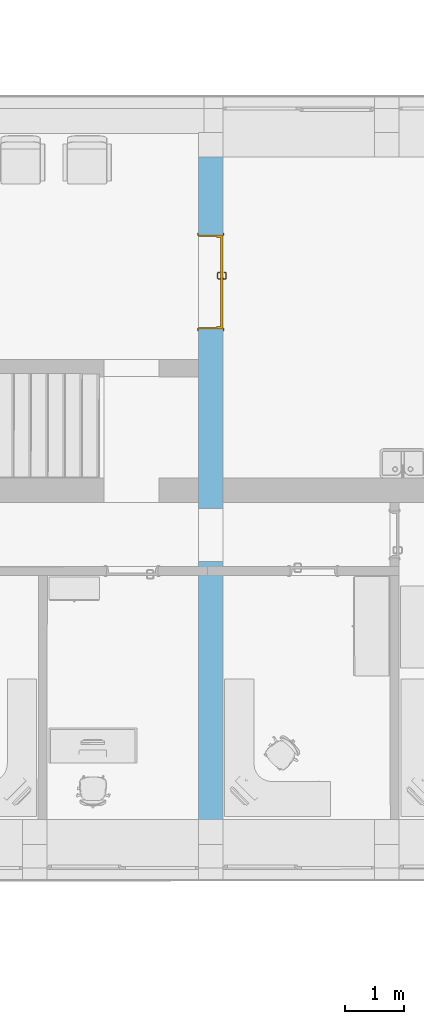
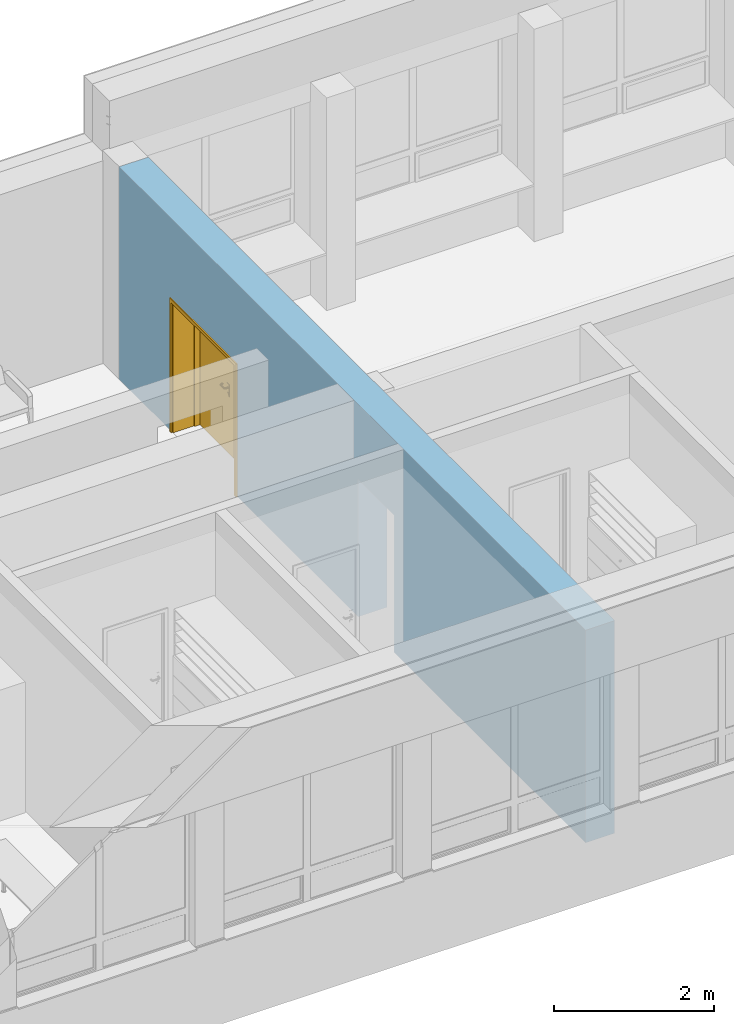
# One storey, part 67 of 194: 1 door, 2 openings, plus 1 element that does not belong to this part.
"""IFC2X3 building model written with IfcOpenShell, lengths in millimetres."""

from ifc_helpers import new_model, entity, si_unit, converted_unit, derived_unit, money_unit, direction, frame, origin_with_axes, origin_2d_with_axis, place, context, subcontext, project, spatial, polyline, rectangle, outline, extrude, open_shell, faceted_brep, surface_model, material, layer, layer_set, layer_usage, type_object, element, fill, save


model = new_model("IFC2X3")

# Units and contexts
model_context = context("Model", 3, precision=1e-05, world=origin_with_axes(), true_north=direction((0.0, 1.0)))
body_context = subcontext(model_context, "Body", "Model", "MODEL_VIEW")
ifc_project = project(units=[si_unit("LENGTHUNIT", "METRE", prefix="MILLI"), si_unit("AREAUNIT", "SQUARE_METRE"), si_unit("VOLUMEUNIT", "CUBIC_METRE"), converted_unit("PLANEANGLEUNIT", "DEGREE", entity("IfcPlaneAngleMeasure", 0.0174532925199), si_unit("PLANEANGLEUNIT", "RADIAN"), dimensions=[0, 0, 0, 0, 0, 0, 0]), si_unit("SOLIDANGLEUNIT", "STERADIAN"), money_unit("EUR"), converted_unit("TIMEUNIT", "Year", entity("IfcTimeMeasure", 31556926.0), si_unit("TIMEUNIT", "SECOND"), dimensions=[0, 0, 1, 0, 0, 0, 0]), si_unit("MASSUNIT", "GRAM", prefix="KILO"), si_unit("THERMODYNAMICTEMPERATUREUNIT", "DEGREE_CELSIUS"), si_unit("LUMINOUSINTENSITYUNIT", "LUMEN"), si_unit("ENERGYUNIT", "JOULE", prefix="MEGA"), derived_unit("THERMALCONDUCTANCEUNIT", [(si_unit("POWERUNIT", "WATT"), 1), (si_unit("LENGTHUNIT", "METRE"), -1), (si_unit("THERMODYNAMICTEMPERATUREUNIT", "KELVIN"), -1)]), derived_unit("SPECIFICHEATCAPACITYUNIT", [(si_unit("ENERGYUNIT", "JOULE"), 1), (si_unit("MASSUNIT", "GRAM", prefix="KILO"), -1), (si_unit("THERMODYNAMICTEMPERATUREUNIT", "KELVIN"), -1)]), derived_unit("MASSDENSITYUNIT", [(si_unit("MASSUNIT", "GRAM", prefix="KILO"), 1), (si_unit("VOLUMEUNIT", "CUBIC_METRE"), -1)])], contexts=[model_context])

# Site, building, storey
site_placement = place(None, origin_with_axes())
site = spatial("IfcSite", under=ifc_project, at=site_placement, Name="Site", CompositionType="ELEMENT")
building_placement = place(site_placement, origin_with_axes())
building = spatial("IfcBuilding", under=site, at=building_placement, Name="Building", CompositionType="ELEMENT")
storey_placement = place(building_placement, frame((0.0, 0.0, 3000.0), z_axis=(0.0, 0.0, 1.0), x_axis=(1.0, 0.0, 0.0)))
storey = spatial("IfcBuildingStorey", under=building, at=storey_placement, Name="2 KORRUS", CompositionType="ELEMENT", Elevation=3000.0)

# Wall, openings, door
ifc_material = material(Name="Kivi -Ol.Olev Konstruktsioon")
ifc_layer = layer(ifc_material, 420.0, ventilated="UNKNOWN")
ifc_layer_set = layer_set([ifc_layer], Name="ol.olev ss 420")
ifc_layer_usage = layer_usage(ifc_layer_set, "AXIS2", "POSITIVE", -420.0)
wall_type = type_object("IfcWallType", Name="SW - 032", PredefinedType="NOTDEFINED")
wall_placement = place(storey_placement, frame((87737.3527847, 34355.6269509, 0.0), z_axis=(0.0, 0.0, 1.0), x_axis=(0.0, 1.0, 0.0)))
wall = element("IfcWallStandardCase", 1, at=wall_placement, inside=storey, type_object=wall_type, material=ifc_layer_usage, Name="ol.olev ss 420", context=body_context, shape_type="SweptSolid", body=[
    extrude(outline(polyline([(430.035803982, -420.0), (12116.1155054, -420.0), (12116.1155054, 0.0), (430.000001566, 0.0), (430.035803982, -420.0)])), origin_with_axes(), (0.0, 0.0, 1.0), 3250.0),
])
opening_1_placement = place(wall_placement, frame((5678.66715227, 0.0, 0.0), z_axis=(0.0, 0.0, 1.0), x_axis=(1.0, 0.0, 0.0)))
element("IfcOpeningElement", 2, at=opening_1_placement, cuts=wall, Name="Siseuks * Rectangular Door Opening 22", context=body_context, shape_type="SweptSolid", body=[
    extrude(rectangle(XDim=900.0, YDim=2100.0, at=origin_2d_with_axis()), frame((0.0, 420.0, 1050.0), z_axis=(0.0, -1.0, 0.0), x_axis=(1.0, 0.0, 0.0)), (0.0, 0.0, 1.0), 1260.0),
])
opening_2_placement = place(wall_placement, frame((9990.59023748, 0.0, 0.0), z_axis=(0.0, 0.0, 1.0), x_axis=(1.0, 0.0, 0.0)))
opening_2 = element("IfcOpeningElement", 3, at=opening_2_placement, cuts=wall, Name="Siseuks * Double Door 22", context=body_context, shape_type="SweptSolid", body=[
    extrude(rectangle(XDim=1600.0, YDim=2000.0, at=origin_2d_with_axis()), frame((0.0, 420.0, 1000.0), z_axis=(0.0, 1.0, 0.0), x_axis=(1.0, 0.0, 0.0)), (0.0, 0.0, -1.0), 1260.0),
    extrude(rectangle(XDim=1674.0, YDim=2037.0, at=origin_2d_with_axis()), frame((0.0, 0.0, 1018.5), z_axis=(0.0, 1.0, 0.0), x_axis=(1.0, 0.0, 0.0)), (0.0, 0.0, 1.0), 420.0),
    extrude(rectangle(XDim=1674.0, YDim=2037.0, at=origin_2d_with_axis()), frame((0.0, -420.0, 1018.5), z_axis=(0.0, -1.0, 0.0), x_axis=(1.0, 0.0, 0.0)), (0.0, 0.0, 1.0), 420.0),
])
door_style = type_object("IfcDoorStyle", Name="SU-B245   1\xa0600×2\xa0000", ConstructionType="NOTDEFINED", OperationType="DOUBLE_DOOR_SINGLE_SWING", ParameterTakesPrecedence=False, Sizeable=False)
door_placement = place(opening_2_placement, frame((800.0, 0.0, 0.0), z_axis=(0.0, 0.0, 1.0), x_axis=(-1.0, 0.0, 0.0)))
door = element("IfcDoor", 4, at=door_placement, inside=storey, type_object=door_style, Name="Siseuks * Double Door 22", OverallHeight=2000.0, OverallWidth=1600.0, context=body_context, shape_type="SurfaceModel", body=[
    faceted_brep([(1600.0, 305.0, 0.0), (1600.0, 0.0, 0.0), (1575.0, 0.0, 0.0), (1575.0, 305.0, 0.0), (1600.0, 305.0, 2000.0), (1600.0, 0.0, 2000.0), (1575.0, 0.0, 1975.0), (1575.0, 305.0, 1975.0)], [[[0, 1, 2, 3]], [[4, 5, 1, 0]], [[1, 5, 6, 2]], [[3, 2, 6, 7]], [[0, 3, 7, 4]], [[7, 6, 5, 4]]]),
    faceted_brep([(0.0, 305.0, 2000.0), (0.0, 0.0, 2000.0), (25.0000000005, 0.0, 1975.0), (25.0000000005, 305.0, 1975.0), (0.0, 305.0, 0.0), (0.0, 0.0, 0.0), (25.0000000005, 0.0, 0.0), (25.0000000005, 305.0, 0.0)], [[[0, 1, 2, 3]], [[4, 5, 1, 0]], [[1, 5, 6, 2]], [[3, 2, 6, 7]], [[0, 3, 7, 4]], [[7, 6, 5, 4]]]),
    faceted_brep([(1575.0, 305.0, 1975.0), (1575.0, 0.0, 1975.0), (25.0000000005, 0.0, 1975.0), (25.0000000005, 305.0, 1975.0), (1600.0, 305.0, 2000.0), (1600.0, 0.0, 2000.0), (0.0, 0.0, 2000.0), (0.0, 305.0, 2000.0)], [[[0, 1, 2, 3]], [[4, 5, 1, 0]], [[1, 5, 6, 2]], [[3, 2, 6, 7]], [[0, 3, 7, 4]], [[7, 6, 5, 4]]]),
    faceted_brep([(1637.0, -19.0, 0.0), (1587.0, -19.0, 0.0), (1587.0, 0.0, 0.0), (1637.0, 0.0, 0.0), (1637.0, -19.0, 2037.0), (1587.0, -19.0, 1987.0), (1587.0, 0.0, 1987.0), (1637.0, 0.0, 2037.0)], [[[0, 1, 2, 3]], [[0, 4, 5, 1]], [[1, 5, 6, 2]], [[3, 2, 6, 7]], [[4, 0, 3, 7]], [[5, 4, 7, 6]]]),
    faceted_brep([(-37.0000000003, -19.0, 2037.0), (12.9999999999, -19.0, 1987.0), (12.9999999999, 0.0, 1987.0), (-37.0000000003, 0.0, 2037.0), (-37.0000000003, -19.0, 0.0), (12.9999999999, -19.0, 0.0), (12.9999999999, 0.0, 0.0), (-37.0000000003, 0.0, 0.0)], [[[0, 1, 2, 3]], [[0, 4, 5, 1]], [[1, 5, 6, 2]], [[3, 2, 6, 7]], [[4, 0, 3, 7]], [[5, 4, 7, 6]]]),
    faceted_brep([(1637.0, -19.0, 2037.0), (1587.0, -19.0, 1987.0), (1587.0, 0.0, 1987.0), (1637.0, 0.0, 2037.0), (-37.0000000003, -19.0, 2037.0), (12.9999999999, -19.0, 1987.0), (12.9999999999, 0.0, 1987.0), (-37.0000000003, 0.0, 2037.0)], [[[0, 1, 2, 3]], [[0, 4, 5, 1]], [[1, 5, 6, 2]], [[3, 2, 6, 7]], [[4, 0, 3, 7]], [[5, 4, 7, 6]]]),
    faceted_brep([(1637.0, 439.0, 0.0), (1637.0, 420.0, 0.0), (1587.0, 420.0, 0.0), (1587.0, 439.0, 0.0), (1637.0, 439.0, 2037.0), (1637.0, 420.0, 2037.0), (1587.0, 420.0, 1987.0), (1587.0, 439.0, 1987.0)], [[[0, 1, 2, 3]], [[4, 5, 1, 0]], [[1, 5, 6, 2]], [[3, 2, 6, 7]], [[0, 3, 7, 4]], [[7, 6, 5, 4]]]),
    faceted_brep([(-37.0000000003, 439.0, 2037.0), (-37.0000000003, 420.0, 2037.0), (12.9999999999, 420.0, 1987.0), (12.9999999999, 439.0, 1987.0), (-37.0000000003, 439.0, 0.0), (-37.0000000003, 420.0, 0.0), (12.9999999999, 420.0, 0.0), (12.9999999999, 439.0, 0.0)], [[[0, 1, 2, 3]], [[4, 5, 1, 0]], [[1, 5, 6, 2]], [[3, 2, 6, 7]], [[0, 3, 7, 4]], [[7, 6, 5, 4]]]),
    faceted_brep([(1637.0, 439.0, 2037.0), (1637.0, 420.0, 2037.0), (1587.0, 420.0, 1987.0), (1587.0, 439.0, 1987.0), (-37.0000000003, 439.0, 2037.0), (-37.0000000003, 420.0, 2037.0), (12.9999999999, 420.0, 1987.0), (12.9999999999, 439.0, 1987.0)], [[[0, 1, 2, 3]], [[4, 5, 1, 0]], [[1, 5, 6, 2]], [[3, 2, 6, 7]], [[0, 3, 7, 4]], [[7, 6, 5, 4]]]),
    faceted_brep([(1560.0, 380.0, 0.0), (1560.0, 305.0, 0.0), (1560.0, 305.0, 1960.0), (1560.0, 380.0, 1960.0), (1572.0, 380.0, 0.0), (1572.0, 420.0, 0.0), (1600.0, 420.0, 0.0), (1600.0, 305.0, 0.0), (1600.0, 305.0, 1960.0), (1572.0, 380.0, 1960.0), (1600.0, 420.0, 1960.0), (1572.0, 420.0, 1960.0)], [[[0, 1, 2, 3]], [[4, 5, 6, 7, 1, 0]], [[1, 7, 8, 2]], [[9, 3, 2, 8, 10, 11]], [[9, 4, 0, 3]], [[11, 5, 4, 9]], [[11, 10, 6, 5]], [[6, 10, 8, 7]]]),
    faceted_brep([(28.0000000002, 380.0, 1960.0), (28.0000000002, 420.0, 1960.0), (0.0, 420.0, 1960.0), (0.0, 305.0, 1960.0), (40.0, 305.0, 1960.0), (40.0, 380.0, 1960.0), (28.0000000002, 380.0, 0.0), (28.0000000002, 420.0, 0.0), (0.0, 420.0, 0.0), (0.0, 305.0, 0.0), (40.0, 305.0, 0.0), (40.0, 380.0, 0.0)], [[[0, 1, 2, 3, 4, 5]], [[0, 6, 7, 1]], [[7, 8, 2, 1]], [[2, 8, 9, 3]], [[3, 9, 10, 4]], [[5, 4, 10, 11]], [[5, 11, 6, 0]], [[6, 11, 10, 9, 8, 7]]]),
    faceted_brep([(1572.0, 420.0, 1972.0), (28.0000000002, 420.0, 1972.0), (28.0000000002, 420.0, 1960.0), (0.0, 420.0, 1960.0), (0.0, 420.0, 2000.0), (1600.0, 420.0, 2000.0), (1600.0, 420.0, 1960.0), (1572.0, 420.0, 1960.0), (1572.0, 380.0, 1972.0), (28.0000000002, 380.0, 1972.0), (28.0000000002, 380.0, 1960.0), (40.0, 380.0, 1960.0), (40.0, 305.0, 1960.0), (0.0, 305.0, 1960.0), (0.0, 305.0, 2000.0), (1600.0, 305.0, 2000.0), (1600.0, 305.0, 1960.0), (1572.0, 380.0, 1960.0), (1560.0, 305.0, 1960.0), (1560.0, 380.0, 1960.0)], [[[0, 1, 2, 3, 4, 5, 6, 7]], [[0, 8, 9, 1]], [[1, 9, 10, 2]], [[10, 11, 12, 13, 3, 2]], [[4, 3, 13, 14]], [[5, 4, 14, 15]], [[6, 5, 15, 16]], [[17, 7, 6, 16, 18, 19]], [[7, 17, 8, 0]], [[10, 9, 8, 17, 19, 11]], [[19, 18, 12, 11]], [[12, 18, 16, 15, 14, 13]]]),
    faceted_brep([(778.5, 380.0, 1060.0), (721.500000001, 380.0, 1060.0), (721.500000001, 377.0, 1060.0), (778.5, 377.0, 1060.0), (778.5, 380.0, 870.0), (721.500000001, 380.0, 870.0), (721.500000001, 377.0, 870.0), (778.5, 377.0, 870.0)], [[[0, 1, 2, 3]], [[0, 4, 5, 1]], [[1, 5, 6, 2]], [[3, 2, 6, 7]], [[4, 0, 3, 7]], [[5, 4, 7, 6]]]),
    surface_model("IfcShellBasedSurfaceModel", [(740.0, 367.0, 1000.0), (742.928932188, 367.0, 992.928932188), (742.928932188, 347.696439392, 992.928932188), (740.0, 347.984914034, 1000.0), (750.0, 367.0, 990.0), (750.0, 347.0, 990.0), (741.816790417, 342.105325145, 992.928932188), (739.057796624, 343.248137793, 1000.0), (742.928932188, 367.0, 1007.07106781), (742.928932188, 347.696439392, 1007.07106781), (757.071067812, 367.0, 992.928932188), (757.071067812, 346.303560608, 992.928932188), (748.477590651, 339.346331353, 990.0), (739.044179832, 337.955820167, 992.928932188), (736.932537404, 340.067462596, 1000.0), (741.816790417, 342.105325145, 1007.07106781), (750.0, 367.0, 1010.0), (750.0, 347.0, 1010.0), (760.0, 367.0, 1000.0), (760.0, 346.015085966, 1000.0), (755.138390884, 336.58733756, 992.928932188), (744.142135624, 332.857864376, 990.0), (734.894674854, 335.183209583, 992.928932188), (733.751862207, 337.942203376, 1000.0), (739.044179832, 337.955820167, 1007.07106781), (748.477590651, 339.346331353, 1010.0), (757.071067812, 367.0, 1007.07106781), (757.071067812, 346.303560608, 1007.07106781), (757.897384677, 335.444524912, 1000.0), (749.240091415, 327.759908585, 992.928932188), (737.653668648, 328.52240935, 990.0), (729.303560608, 334.071067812, 992.928932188), (729.015085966, 337.0, 1000.0), (734.894674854, 335.183209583, 1007.07106781), (744.142135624, 332.857864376, 1010.0), (755.138390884, 336.58733756, 1007.07106781), (751.351733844, 325.648266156, 1000.0), (740.412662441, 321.861609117, 992.928932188), (730.0, 327.0, 990.0), (660.696439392, 334.071067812, 992.928932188), (660.984914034, 337.0, 1000.0), (729.303560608, 334.071067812, 1007.07106781), (737.653668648, 328.52240935, 1010.0), (749.240091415, 327.759908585, 1007.07106781), (741.555475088, 319.102615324, 1000.0), (730.696439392, 319.928932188, 992.928932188), (660.0, 327.0, 990.0), (655.105325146, 335.183209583, 992.928932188), (656.248137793, 337.942203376, 1000.0), (660.696439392, 334.071067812, 1007.07106781), (730.0, 327.0, 1010.0), (740.412662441, 321.861609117, 1007.07106781), (730.984914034, 317.0, 1000.0), (659.303560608, 319.928932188, 992.928932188), (652.346331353, 328.52240935, 990.0), (650.955820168, 337.955820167, 992.928932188), (653.067462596, 340.067462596, 1000.0), (655.105325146, 335.183209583, 1007.07106781), (660.0, 327.0, 1010.0), (730.696439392, 319.928932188, 1007.07106781), (659.015085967, 317.0, 1000.0), (649.58733756, 321.861609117, 992.928932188), (645.857864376, 332.857864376, 990.0), (648.183209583, 342.105325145, 992.928932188), (650.942203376, 343.248137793, 1000.0), (650.955820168, 337.955820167, 1007.07106781), (652.346331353, 328.52240935, 1010.0), (659.303560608, 319.928932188, 1007.07106781), (648.444524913, 319.102615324, 1000.0), (640.759908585, 327.759908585, 992.928932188), (641.52240935, 339.346331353, 990.0), (647.071067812, 347.696439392, 992.928932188), (650.000000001, 347.984914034, 1000.0), (648.183209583, 342.105325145, 1007.07106781), (645.857864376, 332.857864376, 1010.0), (649.58733756, 321.861609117, 1007.07106781), (638.648266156, 325.648266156, 1000.0), (634.861609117, 336.58733756, 992.928932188), (640.0, 347.0, 990.0), (647.071067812, 367.0, 992.928932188), (650.000000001, 367.0, 1000.0), (647.071067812, 347.696439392, 1007.07106781), (641.52240935, 339.346331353, 1010.0), (640.759908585, 327.759908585, 1007.07106781), (632.102615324, 335.444524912, 1000.0), (632.928932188, 346.303560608, 992.928932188), (640.0, 367.0, 990.0), (632.928932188, 367.0, 992.928932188), (630.0, 367.0, 1000.0), (632.928932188, 367.0, 1007.07106781), (640.0, 367.0, 1010.0), (647.071067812, 367.0, 1007.07106781), (640.0, 347.0, 1010.0), (634.861609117, 336.58733756, 1007.07106781), (630.0, 346.015085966, 1000.0), (632.928932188, 346.303560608, 1007.07106781)], [open_shell([[[0, 1, 2, 3]], [[1, 4, 5, 2]], [[3, 2, 6, 7]], [[8, 0, 3, 9]], [[4, 10, 11, 5]], [[2, 5, 12, 6]], [[7, 6, 13, 14]], [[9, 3, 7, 15]], [[16, 8, 9, 17]], [[10, 18, 19, 11]], [[5, 11, 20, 12]], [[6, 12, 21, 13]], [[14, 13, 22, 23]], [[15, 7, 14, 24]], [[17, 9, 15, 25]], [[26, 16, 17, 27]], [[18, 26, 27, 19]], [[11, 19, 28, 20]], [[12, 20, 29, 21]], [[13, 21, 30, 22]], [[23, 22, 31, 32]], [[24, 14, 23, 33]], [[25, 15, 24, 34]], [[27, 17, 25, 35]], [[19, 27, 35, 28]], [[20, 28, 36, 29]], [[21, 29, 37, 30]], [[22, 30, 38, 31]], [[32, 31, 39, 40]], [[33, 23, 32, 41]], [[34, 24, 33, 42]], [[35, 25, 34, 43]], [[28, 35, 43, 36]], [[29, 36, 44, 37]], [[30, 37, 45, 38]], [[31, 38, 46, 39]], [[40, 39, 47, 48]], [[41, 32, 40, 49]], [[42, 33, 41, 50]], [[43, 34, 42, 51]], [[36, 43, 51, 44]], [[37, 44, 52, 45]], [[38, 45, 53, 46]], [[39, 46, 54, 47]], [[48, 47, 55, 56]], [[49, 40, 48, 57]], [[50, 41, 49, 58]], [[51, 42, 50, 59]], [[44, 51, 59, 52]], [[45, 52, 60, 53]], [[46, 53, 61, 54]], [[47, 54, 62, 55]], [[56, 55, 63, 64]], [[57, 48, 56, 65]], [[58, 49, 57, 66]], [[59, 50, 58, 67]], [[52, 59, 67, 60]], [[53, 60, 68, 61]], [[54, 61, 69, 62]], [[55, 62, 70, 63]], [[64, 63, 71, 72]], [[65, 56, 64, 73]], [[66, 57, 65, 74]], [[67, 58, 66, 75]], [[60, 67, 75, 68]], [[61, 68, 76, 69]], [[62, 69, 77, 70]], [[63, 70, 78, 71]], [[72, 71, 79, 80]], [[73, 64, 72, 81]], [[74, 65, 73, 82]], [[75, 66, 74, 83]], [[68, 75, 83, 76]], [[69, 76, 84, 77]], [[70, 77, 85, 78]], [[71, 78, 86, 79]], [[80, 79, 86, 87, 88, 89, 90, 91]], [[81, 72, 80, 91]], [[82, 73, 81, 92]], [[83, 74, 82, 93]], [[76, 83, 93, 84]], [[77, 84, 94, 85]], [[78, 85, 87, 86]], [[85, 94, 88, 87]], [[94, 95, 89, 88]], [[95, 92, 90, 89]], [[92, 81, 91, 90]], [[93, 82, 92, 95]], [[84, 93, 95, 94]]])]),
    faceted_brep([(739.607695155, 367.0, 994.0), (738.0, 367.0, 1000.0), (737.0, 377.0, 1000.0), (738.741669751, 377.0, 993.5), (744.000000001, 367.0, 989.607695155), (750.0, 367.0, 988.0), (756.0, 367.0, 989.607695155), (760.392304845, 367.0, 994.0), (762.000000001, 367.0, 1000.0), (760.392304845, 367.0, 1006.0), (756.0, 367.0, 1010.39230485), (750.0, 367.0, 1012.0), (744.000000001, 367.0, 1010.39230485), (739.607695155, 367.0, 1006.0), (738.741669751, 377.0, 1006.5), (743.5, 377.0, 1011.25833025), (750.0, 377.0, 1013.0), (756.5, 377.0, 1011.25833025), (761.25833025, 377.0, 1006.5), (763.0, 377.0, 1000.0), (761.25833025, 377.0, 993.5), (756.5, 377.0, 988.741669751), (750.0, 377.0, 987.0), (743.5, 377.0, 988.741669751)], [[[0, 1, 2, 3]], [[1, 0, 4, 5, 6, 7, 8, 9, 10, 11, 12, 13]], [[1, 13, 14, 2]], [[2, 14, 15, 16, 17, 18, 19, 20, 21, 22, 23, 3]], [[4, 0, 3, 23]], [[5, 4, 23, 22]], [[6, 5, 22, 21]], [[7, 6, 21, 20]], [[8, 7, 20, 19]], [[9, 8, 19, 18]], [[10, 9, 18, 17]], [[11, 10, 17, 16]], [[12, 11, 16, 15]], [[13, 12, 15, 14]]]),
    faceted_brep([(732.679491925, 373.0, 895.0), (730.0, 373.0, 905.0), (728.0, 377.0, 905.0), (730.947441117, 377.0, 894.0), (740.0, 373.0, 887.679491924), (750.0, 373.0, 885.0), (760.0, 373.0, 887.679491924), (767.320508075, 373.0, 895.0), (770.0, 373.0, 905.0), (767.320508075, 373.0, 915.0), (760.0, 373.0, 922.320508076), (750.0, 373.0, 925.0), (740.0, 373.0, 922.320508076), (732.679491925, 373.0, 915.0), (730.947441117, 377.0, 916.0), (739.0, 377.0, 924.052558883), (750.0, 377.0, 927.0), (761.0, 377.0, 924.052558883), (769.052558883, 377.0, 916.0), (772.0, 377.0, 905.0), (769.052558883, 377.0, 894.0), (761.0, 377.0, 885.947441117), (750.0, 377.0, 883.0), (739.0, 377.0, 885.947441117)], [[[0, 1, 2, 3]], [[1, 0, 4, 5, 6, 7, 8, 9, 10, 11, 12, 13]], [[1, 13, 14, 2]], [[2, 14, 15, 16, 17, 18, 19, 20, 21, 22, 23, 3]], [[4, 0, 3, 23]], [[5, 4, 23, 22]], [[6, 5, 22, 21]], [[7, 6, 21, 20]], [[8, 7, 20, 19]], [[9, 8, 19, 18]], [[10, 9, 18, 17]], [[11, 10, 17, 16]], [[12, 11, 16, 15]], [[13, 12, 15, 14]]]),
    faceted_brep([(745.050252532, 371.0, 909.050252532), (743.0, 371.0, 914.0), (742.0, 373.0, 914.0), (744.34314575, 373.0, 908.343145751), (750.0, 371.0, 907.0), (754.949747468, 371.0, 909.050252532), (757.000000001, 371.0, 914.0), (754.949747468, 371.0, 918.949747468), (750.0, 371.0, 921.0), (745.050252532, 371.0, 918.949747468), (744.34314575, 373.0, 919.656854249), (750.0, 373.0, 922.0), (755.65685425, 373.0, 919.656854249), (758.0, 373.0, 914.0), (755.65685425, 373.0, 908.343145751), (750.0, 373.0, 906.0)], [[[0, 1, 2, 3]], [[1, 0, 4, 5, 6, 7, 8, 9]], [[1, 9, 10, 2]], [[2, 10, 11, 12, 13, 14, 15, 3]], [[4, 0, 3, 15]], [[5, 4, 15, 14]], [[6, 5, 14, 13]], [[7, 6, 13, 12]], [[8, 7, 12, 11]], [[9, 8, 11, 10]]]),
    faceted_brep([(778.5, 420.0, 1060.0), (778.5, 423.0, 1060.0), (721.500000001, 423.0, 1060.0), (721.500000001, 420.0, 1060.0), (778.5, 420.0, 870.0), (778.5, 423.0, 870.0), (721.500000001, 423.0, 870.0), (721.500000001, 420.0, 870.0)], [[[0, 1, 2, 3]], [[4, 5, 1, 0]], [[1, 5, 6, 2]], [[3, 2, 6, 7]], [[0, 3, 7, 4]], [[7, 6, 5, 4]]]),
    surface_model("IfcShellBasedSurfaceModel", [(740.0, 433.0, 1000.0), (740.0, 452.015085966, 1000.0), (742.928932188, 452.303560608, 992.928932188), (742.928932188, 433.0, 992.928932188), (742.928932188, 433.0, 1007.07106781), (742.928932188, 452.303560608, 1007.07106781), (739.057796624, 456.751862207, 1000.0), (741.816790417, 457.894674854, 992.928932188), (750.0, 453.0, 990.0), (750.0, 433.0, 990.0), (750.0, 433.0, 1010.0), (750.0, 453.0, 1010.0), (741.816790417, 457.894674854, 1007.07106781), (736.932537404, 459.932537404, 1000.0), (739.044179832, 462.044179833, 992.928932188), (748.477590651, 460.653668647, 990.0), (757.071067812, 453.696439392, 992.928932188), (757.071067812, 433.0, 992.928932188), (757.071067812, 433.0, 1007.07106781), (757.071067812, 453.696439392, 1007.07106781), (748.477590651, 460.653668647, 1010.0), (739.044179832, 462.044179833, 1007.07106781), (733.751862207, 462.057796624, 1000.0), (734.894674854, 464.816790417, 992.928932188), (744.142135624, 467.142135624, 990.0), (755.138390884, 463.41266244, 992.928932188), (760.0, 453.984914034, 1000.0), (760.0, 433.0, 1000.0), (755.138390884, 463.41266244, 1007.07106781), (744.142135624, 467.142135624, 1010.0), (734.894674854, 464.816790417, 1007.07106781), (729.015085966, 463.0, 1000.0), (729.303560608, 465.928932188, 992.928932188), (737.653668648, 471.47759065, 990.0), (749.240091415, 472.240091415, 992.928932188), (757.897384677, 464.555475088, 1000.0), (749.240091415, 472.240091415, 1007.07106781), (737.653668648, 471.47759065, 1010.0), (729.303560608, 465.928932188, 1007.07106781), (660.984914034, 463.0, 1000.0), (660.696439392, 465.928932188, 992.928932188), (730.0, 473.0, 990.0), (740.412662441, 478.138390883, 992.928932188), (751.351733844, 474.351733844, 1000.0), (740.412662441, 478.138390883, 1007.07106781), (730.0, 473.0, 1010.0), (660.696439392, 465.928932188, 1007.07106781), (656.248137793, 462.057796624, 1000.0), (655.105325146, 464.816790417, 992.928932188), (660.0, 473.0, 990.0), (730.696439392, 480.071067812, 992.928932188), (741.555475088, 480.897384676, 1000.0), (730.696439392, 480.071067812, 1007.07106781), (660.0, 473.0, 1010.0), (655.105325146, 464.816790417, 1007.07106781), (653.067462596, 459.932537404, 1000.0), (650.955820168, 462.044179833, 992.928932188), (652.346331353, 471.47759065, 990.0), (659.303560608, 480.071067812, 992.928932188), (730.984914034, 483.0, 1000.0), (659.303560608, 480.071067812, 1007.07106781), (652.346331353, 471.47759065, 1010.0), (650.955820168, 462.044179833, 1007.07106781), (650.942203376, 456.751862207, 1000.0), (648.183209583, 457.894674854, 992.928932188), (645.857864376, 467.142135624, 990.0), (649.58733756, 478.138390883, 992.928932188), (659.015085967, 483.0, 1000.0), (649.58733756, 478.138390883, 1007.07106781), (645.857864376, 467.142135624, 1010.0), (648.183209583, 457.894674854, 1007.07106781), (650.000000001, 452.015085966, 1000.0), (647.071067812, 452.303560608, 992.928932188), (641.52240935, 460.653668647, 990.0), (640.759908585, 472.240091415, 992.928932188), (648.444524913, 480.897384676, 1000.0), (640.759908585, 472.240091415, 1007.07106781), (641.52240935, 460.653668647, 1010.0), (647.071067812, 452.303560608, 1007.07106781), (650.000000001, 433.0, 1000.0), (647.071067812, 433.0, 992.928932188), (640.0, 453.0, 990.0), (634.861609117, 463.41266244, 992.928932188), (638.648266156, 474.351733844, 1000.0), (634.861609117, 463.41266244, 1007.07106781), (640.0, 453.0, 1010.0), (647.071067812, 433.0, 1007.07106781), (640.0, 433.0, 1010.0), (632.928932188, 433.0, 1007.07106781), (630.0, 433.0, 1000.0), (632.928932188, 433.0, 992.928932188), (640.0, 433.0, 990.0), (632.928932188, 453.696439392, 992.928932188), (632.102615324, 464.555475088, 1000.0), (632.928932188, 453.696439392, 1007.07106781), (630.0, 453.984914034, 1000.0)], [open_shell([[[0, 1, 2, 3]], [[4, 5, 1, 0]], [[1, 6, 7, 2]], [[3, 2, 8, 9]], [[10, 11, 5, 4]], [[5, 12, 6, 1]], [[6, 13, 14, 7]], [[2, 7, 15, 8]], [[9, 8, 16, 17]], [[18, 19, 11, 10]], [[11, 20, 12, 5]], [[12, 21, 13, 6]], [[13, 22, 23, 14]], [[7, 14, 24, 15]], [[8, 15, 25, 16]], [[17, 16, 26, 27]], [[27, 26, 19, 18]], [[19, 28, 20, 11]], [[20, 29, 21, 12]], [[21, 30, 22, 13]], [[22, 31, 32, 23]], [[14, 23, 33, 24]], [[15, 24, 34, 25]], [[16, 25, 35, 26]], [[26, 35, 28, 19]], [[28, 36, 29, 20]], [[29, 37, 30, 21]], [[30, 38, 31, 22]], [[31, 39, 40, 32]], [[23, 32, 41, 33]], [[24, 33, 42, 34]], [[25, 34, 43, 35]], [[35, 43, 36, 28]], [[36, 44, 37, 29]], [[37, 45, 38, 30]], [[38, 46, 39, 31]], [[39, 47, 48, 40]], [[32, 40, 49, 41]], [[33, 41, 50, 42]], [[34, 42, 51, 43]], [[43, 51, 44, 36]], [[44, 52, 45, 37]], [[45, 53, 46, 38]], [[46, 54, 47, 39]], [[47, 55, 56, 48]], [[40, 48, 57, 49]], [[41, 49, 58, 50]], [[42, 50, 59, 51]], [[51, 59, 52, 44]], [[52, 60, 53, 45]], [[53, 61, 54, 46]], [[54, 62, 55, 47]], [[55, 63, 64, 56]], [[48, 56, 65, 57]], [[49, 57, 66, 58]], [[50, 58, 67, 59]], [[59, 67, 60, 52]], [[60, 68, 61, 53]], [[61, 69, 62, 54]], [[62, 70, 63, 55]], [[63, 71, 72, 64]], [[56, 64, 73, 65]], [[57, 65, 74, 66]], [[58, 66, 75, 67]], [[67, 75, 68, 60]], [[68, 76, 69, 61]], [[69, 77, 70, 62]], [[70, 78, 71, 63]], [[71, 79, 80, 72]], [[64, 72, 81, 73]], [[65, 73, 82, 74]], [[66, 74, 83, 75]], [[75, 83, 76, 68]], [[76, 84, 77, 69]], [[77, 85, 78, 70]], [[78, 86, 79, 71]], [[79, 86, 87, 88, 89, 90, 91, 80]], [[72, 80, 91, 81]], [[73, 81, 92, 82]], [[74, 82, 93, 83]], [[83, 93, 84, 76]], [[84, 94, 85, 77]], [[85, 87, 86, 78]], [[94, 88, 87, 85]], [[95, 89, 88, 94]], [[92, 90, 89, 95]], [[81, 91, 90, 92]], [[82, 92, 95, 93]], [[93, 95, 94, 84]]])]),
    faceted_brep([(739.607695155, 433.0, 994.0), (738.741669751, 423.0, 993.5), (737.0, 423.0, 1000.0), (738.0, 433.0, 1000.0), (744.000000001, 433.0, 989.607695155), (743.5, 423.0, 988.741669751), (750.0, 423.0, 987.0), (756.5, 423.0, 988.741669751), (761.25833025, 423.0, 993.5), (763.0, 423.0, 1000.0), (761.25833025, 423.0, 1006.5), (756.5, 423.0, 1011.25833025), (750.0, 423.0, 1013.0), (743.5, 423.0, 1011.25833025), (738.741669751, 423.0, 1006.5), (739.607695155, 433.0, 1006.0), (744.000000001, 433.0, 1010.39230485), (750.0, 433.0, 1012.0), (756.0, 433.0, 1010.39230485), (760.392304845, 433.0, 1006.0), (762.000000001, 433.0, 1000.0), (760.392304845, 433.0, 994.0), (756.0, 433.0, 989.607695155), (750.0, 433.0, 988.0)], [[[0, 1, 2, 3]], [[4, 5, 1, 0]], [[2, 1, 5, 6, 7, 8, 9, 10, 11, 12, 13, 14]], [[3, 2, 14, 15]], [[3, 15, 16, 17, 18, 19, 20, 21, 22, 23, 4, 0]], [[23, 6, 5, 4]], [[22, 7, 6, 23]], [[21, 8, 7, 22]], [[20, 9, 8, 21]], [[19, 10, 9, 20]], [[18, 11, 10, 19]], [[17, 12, 11, 18]], [[16, 13, 12, 17]], [[15, 14, 13, 16]]]),
    faceted_brep([(732.679491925, 427.0, 895.0), (730.947441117, 423.0, 894.0), (728.0, 423.0, 905.0), (730.0, 427.0, 905.0), (740.0, 427.0, 887.679491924), (739.0, 423.0, 885.947441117), (750.0, 423.0, 883.0), (761.0, 423.0, 885.947441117), (769.052558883, 423.0, 894.0), (772.0, 423.0, 905.0), (769.052558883, 423.0, 916.0), (761.0, 423.0, 924.052558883), (750.0, 423.0, 927.0), (739.0, 423.0, 924.052558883), (730.947441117, 423.0, 916.0), (732.679491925, 427.0, 915.0), (740.0, 427.0, 922.320508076), (750.0, 427.0, 925.0), (760.0, 427.0, 922.320508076), (767.320508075, 427.0, 915.0), (770.0, 427.0, 905.0), (767.320508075, 427.0, 895.0), (760.0, 427.0, 887.679491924), (750.0, 427.0, 885.0)], [[[0, 1, 2, 3]], [[4, 5, 1, 0]], [[2, 1, 5, 6, 7, 8, 9, 10, 11, 12, 13, 14]], [[3, 2, 14, 15]], [[3, 15, 16, 17, 18, 19, 20, 21, 22, 23, 4, 0]], [[23, 6, 5, 4]], [[22, 7, 6, 23]], [[21, 8, 7, 22]], [[20, 9, 8, 21]], [[19, 10, 9, 20]], [[18, 11, 10, 19]], [[17, 12, 11, 18]], [[16, 13, 12, 17]], [[15, 14, 13, 16]]]),
    faceted_brep([(745.050252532, 429.0, 909.050252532), (744.34314575, 427.0, 908.343145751), (742.0, 427.0, 914.0), (743.0, 429.0, 914.0), (750.0, 429.0, 907.0), (750.0, 427.0, 906.0), (755.65685425, 427.0, 908.343145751), (758.0, 427.0, 914.0), (755.65685425, 427.0, 919.656854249), (750.0, 427.0, 922.0), (744.34314575, 427.0, 919.656854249), (745.050252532, 429.0, 918.949747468), (750.0, 429.0, 921.0), (754.949747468, 429.0, 918.949747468), (757.000000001, 429.0, 914.0), (754.949747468, 429.0, 909.050252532)], [[[0, 1, 2, 3]], [[4, 5, 1, 0]], [[2, 1, 5, 6, 7, 8, 9, 10]], [[3, 2, 10, 11]], [[3, 11, 12, 13, 14, 15, 4, 0]], [[15, 6, 5, 4]], [[14, 7, 6, 15]], [[13, 8, 7, 14]], [[12, 9, 8, 13]], [[11, 10, 9, 12]]]),
    faceted_brep([(28.0000000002, 420.0, 0.0), (800.0, 420.0, 0.0), (800.0, 380.0, 0.0), (28.0000000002, 380.0, 0.0), (28.0000000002, 420.0, 1972.0), (800.0, 420.0, 1972.0), (800.0, 380.0, 1972.0), (28.0000000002, 380.0, 1972.0)], [[[0, 1, 2, 3]], [[0, 4, 5, 1]], [[1, 5, 6, 2]], [[3, 2, 6, 7]], [[4, 0, 3, 7]], [[5, 4, 7, 6]]]),
    faceted_brep([(1572.0, 420.0, 0.0), (1572.0, 380.0, 0.0), (800.0, 380.0, 0.0), (800.0, 420.0, 0.0), (1572.0, 420.0, 1972.0), (1572.0, 380.0, 1972.0), (800.0, 380.0, 1972.0), (800.0, 420.0, 1972.0)], [[[0, 1, 2, 3]], [[4, 5, 1, 0]], [[1, 5, 6, 2]], [[3, 2, 6, 7]], [[0, 3, 7, 4]], [[7, 6, 5, 4]]]),
])
fill(opening_2, door)

save(model, "model.ifc")
